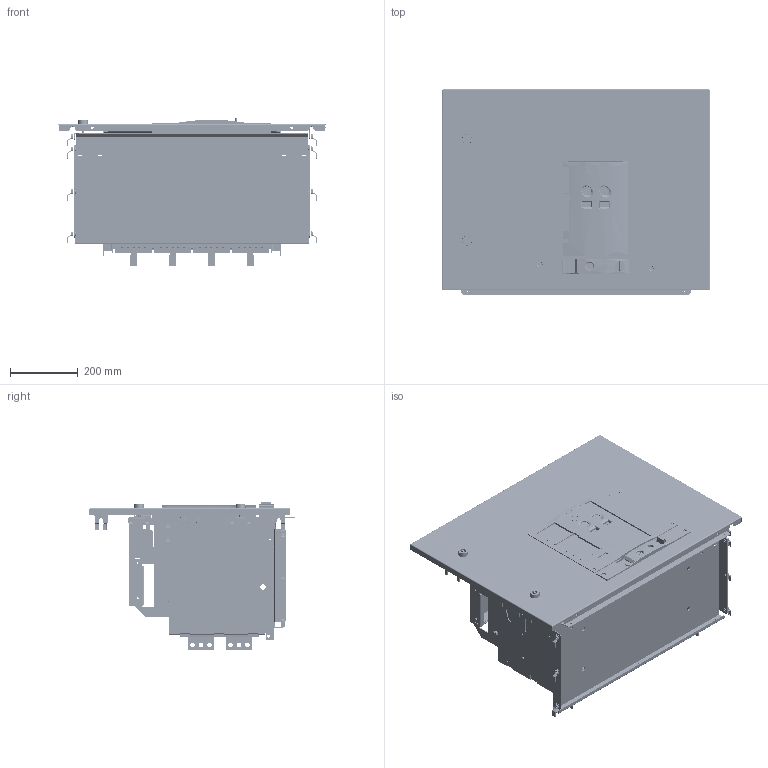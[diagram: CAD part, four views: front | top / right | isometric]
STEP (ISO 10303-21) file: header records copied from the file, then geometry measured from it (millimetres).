
FILE_DESCRIPTION(('CAx-IF Rec.Pracs.---Model Styling and Organization---1.2---2011-12-15','CAx-IF Rec.Pracs.---Geometric and Assembly Validation Properties---4.1---2014-06-16','CAx-IF Rec.Pracs.---PMI Polyline Presentation---2.0---2013-05-24'),'2;1');
FILE_NAME('R5PKEB7V815254P.stp','2021-07-29T03:01:53+03:00',(''),(''),'STEP Interface 4.4 by CT CoreTechnologie','3D_Evolution4.4 by CT CoreTechnologie','');
FILE_SCHEMA(('AUTOMOTIVE_DESIGN { 1 0 10303 214 1 1 1 1 }'));
Length unit declared in the file: millimetre
Products named in the file (1): R5PKEB7V815254P
Bounding box: 794 x 607.5 x 437.6 mm (x, y, z)
Surface area: 6287803 mm2 (no closed solid volume)
Topology: 0 solids, 119 shells, 7447 faces, 20974 edges, 13688 vertices
Faces by surface type: plane 4657, cylinder 2226, bspline 564
Entity records: 255094 total; most frequent: CARTESIAN_POINT 59933, ORIENTED_EDGE 41744, DIRECTION 39310, EDGE_CURVE 20884, VECTOR 15336, LINE 15336, VERTEX_POINT 13705, AXIS2_PLACEMENT_3D 11987
